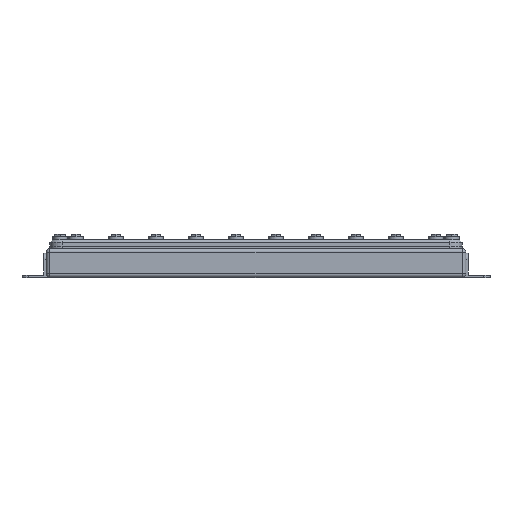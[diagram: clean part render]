
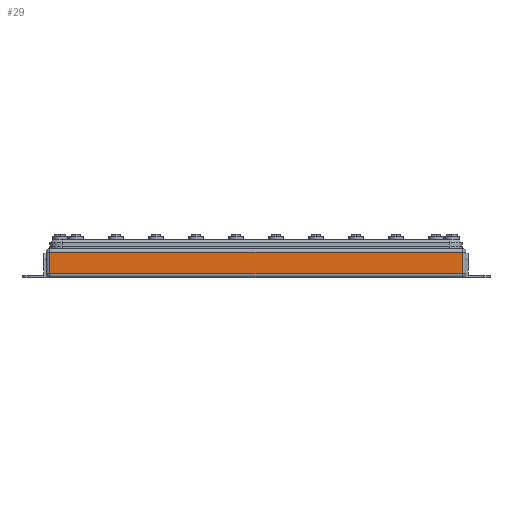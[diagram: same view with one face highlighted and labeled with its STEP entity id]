
A CAD part, left-side view. The second image highlights one B-rep face of the part: STEP entity #29.
In plain terms, the highlighted planar face has unit normal (-1, 0, 0).
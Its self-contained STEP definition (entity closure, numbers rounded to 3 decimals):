
#29 = ADVANCED_FACE ( 'NONE', ( #9686 ), #751, .F. ) ;
#751 = PLANE ( 'NONE',  #6750 ) ;
#789 = VERTEX_POINT ( 'NONE', #12812 ) ;
#1240 = EDGE_CURVE ( 'NONE', #3157, #789, #10050, .T. ) ;
#1355 = DIRECTION ( 'NONE',  ( 0., 0., -1. ) ) ;
#1384 = VECTOR ( 'NONE', #1355, 1000. ) ;
#1901 = DIRECTION ( 'NONE',  ( 0., 1., 0. ) ) ;
#2537 = CARTESIAN_POINT ( 'NONE',  ( -73., -170., 3. ) ) ;
#2739 = LINE ( 'NONE', #10733, #8449 ) ;
#2760 = CARTESIAN_POINT ( 'NONE',  ( -73., 170., 21. ) ) ;
#3157 = VERTEX_POINT ( 'NONE', #2760 ) ;
#3729 = VERTEX_POINT ( 'NONE', #7399 ) ;
#3730 = CARTESIAN_POINT ( 'NONE',  ( -73., -173., 24. ) ) ;
#4236 = ORIENTED_EDGE ( 'NONE', *, *, #1240, .T. ) ;
#4714 = DIRECTION ( 'NONE',  ( 1., 0., 0. ) ) ;
#4723 = CARTESIAN_POINT ( 'NONE',  ( -73., -170., 24. ) ) ;
#4903 = ORIENTED_EDGE ( 'NONE', *, *, #10075, .T. ) ;
#4967 = ORIENTED_EDGE ( 'NONE', *, *, #10213, .T. ) ;
#5301 = CARTESIAN_POINT ( 'NONE',  ( -73., -173., 3. ) ) ;
#5641 = LINE ( 'NONE', #4723, #6805 ) ;
#5769 = DIRECTION ( 'NONE',  ( 0., 0., 1. ) ) ;
#6750 = AXIS2_PLACEMENT_3D ( 'NONE', #3730, #4714, #7723 ) ;
#6766 = VERTEX_POINT ( 'NONE', #2537 ) ;
#6805 = VECTOR ( 'NONE', #5769, 1000. ) ;
#6958 = ORIENTED_EDGE ( 'NONE', *, *, #10951, .T. ) ;
#7197 = VECTOR ( 'NONE', #10422, 1000. ) ;
#7399 = CARTESIAN_POINT ( 'NONE',  ( -73., -170., 21. ) ) ;
#7723 = DIRECTION ( 'NONE',  ( 0., 0., -1. ) ) ;
#8449 = VECTOR ( 'NONE', #1901, 1000. ) ;
#8566 = EDGE_LOOP ( 'NONE', ( #6958, #4967, #4236, #4903 ) ) ;
#9294 = LINE ( 'NONE', #5301, #7197 ) ;
#9686 = FACE_OUTER_BOUND ( 'NONE', #8566, .T. ) ;
#10050 = LINE ( 'NONE', #10189, #1384 ) ;
#10075 = EDGE_CURVE ( 'NONE', #789, #6766, #9294, .T. ) ;
#10189 = CARTESIAN_POINT ( 'NONE',  ( -73., 170., 24. ) ) ;
#10213 = EDGE_CURVE ( 'NONE', #3729, #3157, #2739, .T. ) ;
#10422 = DIRECTION ( 'NONE',  ( 0., -1., 0. ) ) ;
#10733 = CARTESIAN_POINT ( 'NONE',  ( -73., -173., 21. ) ) ;
#10951 = EDGE_CURVE ( 'NONE', #6766, #3729, #5641, .T. ) ;
#12812 = CARTESIAN_POINT ( 'NONE',  ( -73., 170., 3. ) ) ;
